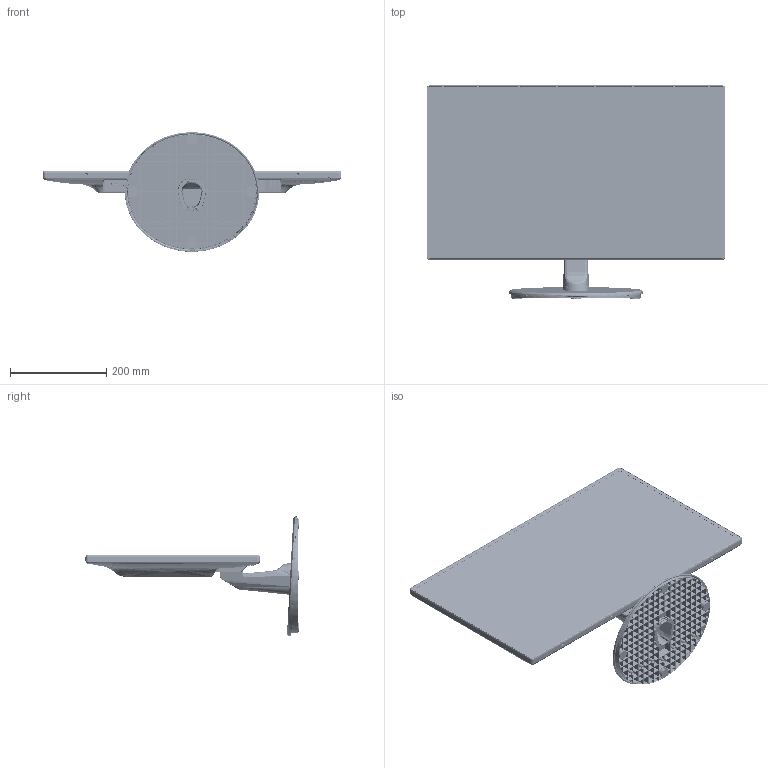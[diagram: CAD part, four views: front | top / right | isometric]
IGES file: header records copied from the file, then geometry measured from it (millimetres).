
Start section: SolidWorks IGES file using analytic representation for surfaces
Global section: file name: C:\Users\ebarton\Documents\Redoing Drawings Project\Finished Products\997-8369 (PXN2770MW)\997-8369.IGS; native system: SolidWorks 2016; preprocessor: SolidWorks 2016; author: ebarton; date: 160621.104853; units: millimetre
Bounding box: 620.16 x 442.63 x 248.46 mm (x, y, z)
Surface area: 1717898 mm2 (no closed solid volume)
Topology: 0 solids, 0 shells, 10584 faces, 103941 edges, 103898 vertices
Faces by surface type: bspline 7609, revolution 2975
